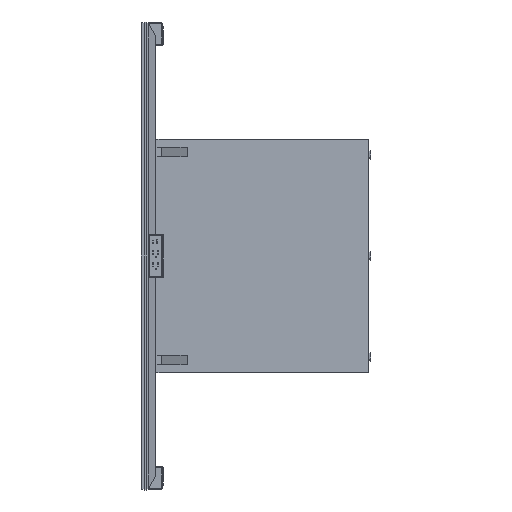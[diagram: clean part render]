
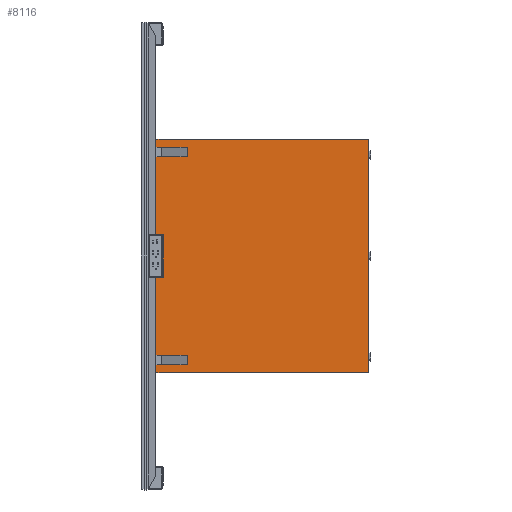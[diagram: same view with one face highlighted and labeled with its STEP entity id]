
A CAD part, left-side view. The second image highlights one B-rep face of the part: STEP entity #8116.
In plain terms, the highlighted planar face has unit normal (-1, 0, 0) as drawn and (0, 0, -1) by its records, which use the part's own axes.
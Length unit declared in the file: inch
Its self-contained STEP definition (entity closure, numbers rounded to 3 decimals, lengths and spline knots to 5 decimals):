
#1712=FACE_OUTER_BOUND('',#2130,.T.);
#2130=EDGE_LOOP('',(#6637,#6638,#6639,#6640,#6641,#6642,#6643,#6644,#6645,
#6646,#6647,#6648));
#2809=LINE('',#12933,#3677);
#2813=LINE('',#12941,#3681);
#2816=LINE('',#12947,#3684);
#2819=LINE('',#12954,#3687);
#2823=LINE('',#12962,#3691);
#2826=LINE('',#12968,#3694);
#2835=LINE('',#12985,#3703);
#2838=LINE('',#12990,#3706);
#2840=LINE('',#12994,#3708);
#2842=LINE('',#12998,#3710);
#2843=LINE('',#13000,#3711);
#2844=LINE('',#13001,#3712);
#3677=VECTOR('',#10378,0.3937);
#3681=VECTOR('',#10384,0.3937);
#3684=VECTOR('',#10389,0.3937);
#3687=VECTOR('',#10394,0.3937);
#3691=VECTOR('',#10400,0.3937);
#3694=VECTOR('',#10405,0.3937);
#3703=VECTOR('',#10418,0.3937);
#3706=VECTOR('',#10423,0.3937);
#3708=VECTOR('',#10427,0.3937);
#3710=VECTOR('',#10431,0.3937);
#3711=VECTOR('',#10434,0.3937);
#3712=VECTOR('',#10435,0.3937);
#4399=VERTEX_POINT('',#12931);
#4400=VERTEX_POINT('',#12932);
#4403=VERTEX_POINT('',#12940);
#4405=VERTEX_POINT('',#12946);
#4407=VERTEX_POINT('',#12952);
#4408=VERTEX_POINT('',#12953);
#4411=VERTEX_POINT('',#12961);
#4413=VERTEX_POINT('',#12967);
#4419=VERTEX_POINT('',#12984);
#4420=VERTEX_POINT('',#12988);
#4421=VERTEX_POINT('',#12992);
#4422=VERTEX_POINT('',#12996);
#5176=EDGE_CURVE('',#4399,#4400,#2809,.T.);
#5180=EDGE_CURVE('',#4400,#4403,#2813,.T.);
#5183=EDGE_CURVE('',#4403,#4405,#2816,.T.);
#5186=EDGE_CURVE('',#4407,#4408,#2819,.T.);
#5190=EDGE_CURVE('',#4408,#4411,#2823,.T.);
#5193=EDGE_CURVE('',#4411,#4413,#2826,.T.);
#5202=EDGE_CURVE('',#4399,#4419,#2835,.T.);
#5205=EDGE_CURVE('',#4420,#4413,#2838,.T.);
#5207=EDGE_CURVE('',#4421,#4420,#2840,.T.);
#5209=EDGE_CURVE('',#4422,#4419,#2842,.T.);
#5210=EDGE_CURVE('',#4407,#4405,#2843,.T.);
#5211=EDGE_CURVE('',#4421,#4422,#2844,.T.);
#6637=ORIENTED_EDGE('',*,*,#5183,.T.);
#6638=ORIENTED_EDGE('',*,*,#5210,.F.);
#6639=ORIENTED_EDGE('',*,*,#5186,.T.);
#6640=ORIENTED_EDGE('',*,*,#5190,.T.);
#6641=ORIENTED_EDGE('',*,*,#5193,.T.);
#6642=ORIENTED_EDGE('',*,*,#5205,.F.);
#6643=ORIENTED_EDGE('',*,*,#5207,.F.);
#6644=ORIENTED_EDGE('',*,*,#5211,.T.);
#6645=ORIENTED_EDGE('',*,*,#5209,.T.);
#6646=ORIENTED_EDGE('',*,*,#5202,.F.);
#6647=ORIENTED_EDGE('',*,*,#5176,.T.);
#6648=ORIENTED_EDGE('',*,*,#5180,.T.);
#7752=PLANE('',#9040);
#8116=ADVANCED_FACE('',(#1712),#7752,.T.);
#9040=AXIS2_PLACEMENT_3D('',#12999,#10432,#10433);
#10378=DIRECTION('',(0.,-1.,0.));
#10384=DIRECTION('',(1.,0.,0.));
#10389=DIRECTION('',(0.,1.,0.));
#10394=DIRECTION('',(0.,-1.,0.));
#10400=DIRECTION('',(1.,0.,0.));
#10405=DIRECTION('',(0.,1.,0.));
#10418=DIRECTION('',(-1.,0.,0.));
#10423=DIRECTION('',(-1.,0.,0.));
#10427=DIRECTION('',(0.,1.,0.));
#10431=DIRECTION('',(0.,1.,0.));
#10432=DIRECTION('center_axis',(0.,0.,-1.));
#10433=DIRECTION('ref_axis',(-1.,0.,0.));
#10434=DIRECTION('',(-1.,0.,0.));
#10435=DIRECTION('',(-1.,0.,0.));
#12931=CARTESIAN_POINT('',(1.,27.375,-10.));
#12932=CARTESIAN_POINT('',(1.,23.375,-10.));
#12933=CARTESIAN_POINT('',(1.,11.6875,-10.));
#12940=CARTESIAN_POINT('',(2.25,23.375,-10.));
#12941=CARTESIAN_POINT('',(16.125,23.375,-10.));
#12946=CARTESIAN_POINT('',(2.25,27.375,-10.));
#12947=CARTESIAN_POINT('',(2.25,13.6875,-10.));
#12952=CARTESIAN_POINT('',(27.75,27.375,-10.));
#12953=CARTESIAN_POINT('',(27.75,23.375,-10.));
#12954=CARTESIAN_POINT('',(27.75,11.6875,-10.));
#12961=CARTESIAN_POINT('',(29.,23.375,-10.));
#12962=CARTESIAN_POINT('',(29.5,23.375,-10.));
#12967=CARTESIAN_POINT('',(29.,27.375,-10.));
#12968=CARTESIAN_POINT('',(29.,13.6875,-10.));
#12984=CARTESIAN_POINT('',(0.,27.375,-10.));
#12985=CARTESIAN_POINT('',(30.,27.375,-10.));
#12988=CARTESIAN_POINT('',(30.,27.375,-10.));
#12990=CARTESIAN_POINT('',(30.,27.375,-10.));
#12992=CARTESIAN_POINT('',(30.,0.,-10.));
#12994=CARTESIAN_POINT('',(30.,0.,-10.));
#12996=CARTESIAN_POINT('',(0.,0.,-10.));
#12998=CARTESIAN_POINT('',(0.,0.,-10.));
#12999=CARTESIAN_POINT('Origin',(30.,0.,-10.));
#13000=CARTESIAN_POINT('',(30.,27.375,-10.));
#13001=CARTESIAN_POINT('',(30.,0.,-10.));
